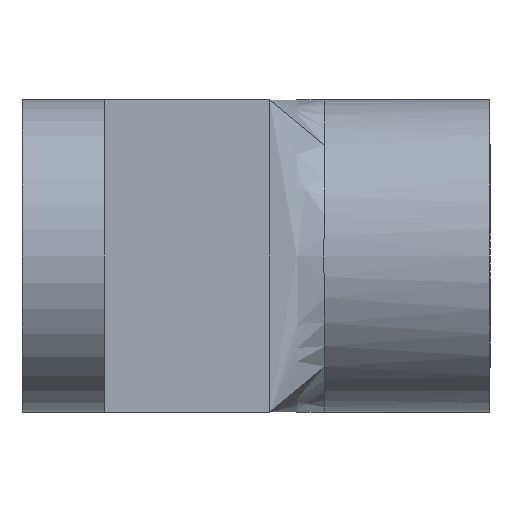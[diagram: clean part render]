
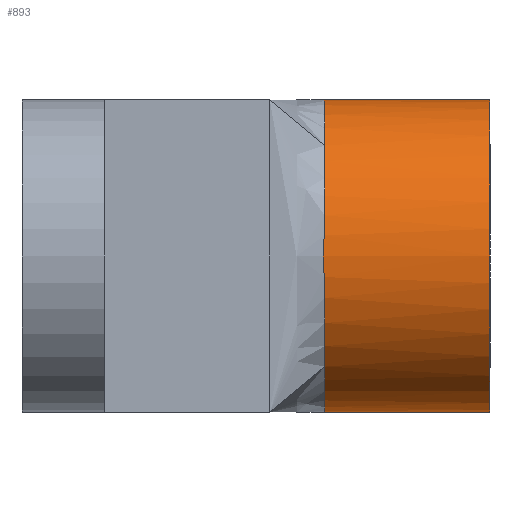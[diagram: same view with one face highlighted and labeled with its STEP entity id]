
A CAD part, left-side view. The second image highlights one B-rep face of the part: STEP entity #893.
In plain terms, the highlighted cylindrical face has radius 4.508 mm (diameter 9.017 mm), a partial arc.
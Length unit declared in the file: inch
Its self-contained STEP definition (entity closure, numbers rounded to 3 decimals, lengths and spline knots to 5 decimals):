
#19 = VERTEX_POINT ( 'NONE', #906 ) ;
#33 = CARTESIAN_POINT ( 'NONE',  ( -0.17177, 0.18769, 0.04625 ) ) ;
#37 = CARTESIAN_POINT ( 'NONE',  ( -0.13377, 0.1875, -0.11725 ) ) ;
#41 = CARTESIAN_POINT ( 'NONE',  ( -0.17178, 0.18769, -0.04619 ) ) ;
#60 = CARTESIAN_POINT ( 'NONE',  ( -0.12551, 0.1875, -0.12551 ) ) ;
#76 = ORIENTED_EDGE ( 'NONE', *, *, #1014, .F. ) ;
#104 = CARTESIAN_POINT ( 'NONE',  ( -0.12551, 0.1875, -0.12551 ) ) ;
#110 = LINE ( 'NONE', #631, #276 ) ;
#117 = CARTESIAN_POINT ( 'NONE',  ( -0.12551, 0.1875, 0.12551 ) ) ;
#126 = CARTESIAN_POINT ( 'NONE',  ( -0.1775, 0.18889, -0.00576 ) ) ;
#134 = CARTESIAN_POINT ( 'NONE',  ( -0.17607, 0.18828, -0.02325 ) ) ;
#160 = VERTEX_POINT ( 'NONE', #180 ) ;
#177 = VECTOR ( 'NONE', #904, 39.37008 ) ;
#178 = VERTEX_POINT ( 'NONE', #348 ) ;
#180 = CARTESIAN_POINT ( 'NONE',  ( 0., 0.18912, -0.1775 ) ) ;
#187 = B_SPLINE_CURVE_WITH_KNOTS ( 'NONE', 3,
 ( #245, #514, #948, #1103, #420, #863, #600, #757, #688, #856, #765, #341 ),
 .UNSPECIFIED., .F., .F.,
 ( 4, 2, 2, 2, 2, 4 ),
 ( 0., 0.00088, 0.00176, 0.00263, 0.00307, 0.00351 ),
 .UNSPECIFIED. ) ;
#190 = ORIENTED_EDGE ( 'NONE', *, *, #986, .T. ) ;
#192 = VERTEX_POINT ( 'NONE', #857 ) ;
#199 = B_SPLINE_CURVE_WITH_KNOTS ( 'NONE', 3,
 ( #807, #37, #799, #1071, #892, #895, #41, #215, #134, #1065, #126, #728 ),
 .UNSPECIFIED., .F., .F.,
 ( 4, 2, 2, 2, 2, 4 ),
 ( 0., 0.00088, 0.00176, 0.00263, 0.00307, 0.00351 ),
 .UNSPECIFIED. ) ;
#210 = DIRECTION ( 'NONE',  ( 0., 1., 0. ) ) ;
#215 = CARTESIAN_POINT ( 'NONE',  ( -0.17521, 0.18811, -0.02903 ) ) ;
#231 = CARTESIAN_POINT ( 'NONE',  ( -0.08893, 0.18753, -0.15405 ) ) ;
#245 = CARTESIAN_POINT ( 'NONE',  ( -0.12551, 0.1875, 0.12551 ) ) ;
#261 = ORIENTED_EDGE ( 'NONE', *, *, #292, .F. ) ;
#272 = ORIENTED_EDGE ( 'NONE', *, *, #1003, .T. ) ;
#276 = VECTOR ( 'NONE', #635, 39.37008 ) ;
#288 = FACE_OUTER_BOUND ( 'NONE', #1087, .T. ) ;
#292 = EDGE_CURVE ( 'NONE', #344, #19, #110, .T. ) ;
#299 = CARTESIAN_POINT ( 'NONE',  ( -0.16838, 0.18753, 0.05732 ) ) ;
#315 = AXIS2_PLACEMENT_3D ( 'NONE', #633, #210, #466 ) ;
#341 = CARTESIAN_POINT ( 'NONE',  ( 0., 0.18912, 0.1775 ) ) ;
#344 = VERTEX_POINT ( 'NONE', #798 ) ;
#348 = CARTESIAN_POINT ( 'NONE',  ( -0.12551, 0.1875, 0.12551 ) ) ;
#354 = CYLINDRICAL_SURFACE ( 'NONE', #777, 0.1775 ) ;
#361 = ORIENTED_EDGE ( 'NONE', *, *, #462, .F. ) ;
#370 = VERTEX_POINT ( 'NONE', #104 ) ;
#372 = CIRCLE ( 'NONE', #315, 0.1775 ) ;
#379 = CARTESIAN_POINT ( 'NONE',  ( -0.15956, 0.18748, 0.07861 ) ) ;
#420 = CARTESIAN_POINT ( 'NONE',  ( -0.07884, 0.18748, 0.15945 ) ) ;
#462 = EDGE_CURVE ( 'NONE', #178, #344, #187, .T. ) ;
#466 = DIRECTION ( 'NONE',  ( 0., 0., 1. ) ) ;
#514 = CARTESIAN_POINT ( 'NONE',  ( -0.11725, 0.1875, 0.13377 ) ) ;
#530 = DIRECTION ( 'NONE',  ( 0., -1., 0. ) ) ;
#531 = ORIENTED_EDGE ( 'NONE', *, *, #1075, .F. ) ;
#549 = CARTESIAN_POINT ( 'NONE',  ( -0.17635, 0.18825, 0.02335 ) ) ;
#569 = CARTESIAN_POINT ( 'NONE',  ( -0.07861, 0.18748, -0.15956 ) ) ;
#576 = CARTESIAN_POINT ( 'NONE',  ( -0.01167, 0.18865, -0.1775 ) ) ;
#580 = VERTEX_POINT ( 'NONE', #805 ) ;
#594 = B_SPLINE_CURVE_WITH_KNOTS ( 'NONE', 3,
 ( #733, #576, #1083, #1004, #657, #569, #231, #910, #918, #60 ),
 .UNSPECIFIED., .F., .F.,
 ( 4, 2, 2, 2, 4 ),
 ( -0.00007, 0.00082, 0.00171, 0.0026, 0.00349 ),
 .UNSPECIFIED. ) ;
#600 = CARTESIAN_POINT ( 'NONE',  ( -0.04619, 0.18769, 0.17178 ) ) ;
#631 = CARTESIAN_POINT ( 'NONE',  ( 0., 1.12705, 0.1775 ) ) ;
#633 = CARTESIAN_POINT ( 'NONE',  ( 0., 0., 0. ) ) ;
#635 = DIRECTION ( 'NONE',  ( 0., -1., 0. ) ) ;
#641 = CARTESIAN_POINT ( 'NONE',  ( -0.14113, 0.18753, 0.10828 ) ) ;
#657 = CARTESIAN_POINT ( 'NONE',  ( -0.05732, 0.18753, -0.16838 ) ) ;
#688 = CARTESIAN_POINT ( 'NONE',  ( -0.02325, 0.18828, 0.17607 ) ) ;
#716 = CARTESIAN_POINT ( 'NONE',  ( -0.15405, 0.18753, 0.08893 ) ) ;
#719 = CARTESIAN_POINT ( 'NONE',  ( 0., 1.12705, -0.1775 ) ) ;
#728 = CARTESIAN_POINT ( 'NONE',  ( -0.1775, 0.18912, 0. ) ) ;
#733 = CARTESIAN_POINT ( 'NONE',  ( 0., 0.18912, -0.1775 ) ) ;
#748 = B_SPLINE_CURVE_WITH_KNOTS ( 'NONE', 3,
 ( #980, #1068, #549, #33, #299, #379, #716, #641, #888, #117 ),
 .UNSPECIFIED., .F., .F.,
 ( 4, 2, 2, 2, 4 ),
 ( -0.00007, 0.00082, 0.00171, 0.0026, 0.00349 ),
 .UNSPECIFIED. ) ;
#757 = CARTESIAN_POINT ( 'NONE',  ( -0.02903, 0.18811, 0.17521 ) ) ;
#765 = CARTESIAN_POINT ( 'NONE',  ( -0.00576, 0.18889, 0.1775 ) ) ;
#777 = AXIS2_PLACEMENT_3D ( 'NONE', #1041, #530, #946 ) ;
#798 = CARTESIAN_POINT ( 'NONE',  ( 0., 0.18912, 0.1775 ) ) ;
#799 = CARTESIAN_POINT ( 'NONE',  ( -0.14109, 0.18753, -0.10831 ) ) ;
#803 = LINE ( 'NONE', #719, #177 ) ;
#805 = CARTESIAN_POINT ( 'NONE',  ( 0., 0., -0.1775 ) ) ;
#807 = CARTESIAN_POINT ( 'NONE',  ( -0.12551, 0.1875, -0.12551 ) ) ;
#808 = ORIENTED_EDGE ( 'NONE', *, *, #936, .F. ) ;
#856 = CARTESIAN_POINT ( 'NONE',  ( -0.01163, 0.18867, 0.17721 ) ) ;
#857 = CARTESIAN_POINT ( 'NONE',  ( -0.1775, 0.18912, 0. ) ) ;
#863 = CARTESIAN_POINT ( 'NONE',  ( -0.05736, 0.18752, 0.16838 ) ) ;
#888 = CARTESIAN_POINT ( 'NONE',  ( -0.13377, 0.1875, 0.11725 ) ) ;
#892 = CARTESIAN_POINT ( 'NONE',  ( -0.15945, 0.18748, -0.07884 ) ) ;
#893 = ADVANCED_FACE ( 'NONE', ( #288 ), #354, .T. ) ;
#895 = CARTESIAN_POINT ( 'NONE',  ( -0.16838, 0.18752, -0.05736 ) ) ;
#904 = DIRECTION ( 'NONE',  ( 0., -1., 0. ) ) ;
#906 = CARTESIAN_POINT ( 'NONE',  ( 0., 0., 0.1775 ) ) ;
#910 = CARTESIAN_POINT ( 'NONE',  ( -0.10828, 0.18753, -0.14113 ) ) ;
#918 = CARTESIAN_POINT ( 'NONE',  ( -0.11725, 0.1875, -0.13377 ) ) ;
#936 = EDGE_CURVE ( 'NONE', #370, #192, #199, .T. ) ;
#946 = DIRECTION ( 'NONE',  ( 0., 0., -1. ) ) ;
#948 = CARTESIAN_POINT ( 'NONE',  ( -0.10831, 0.18753, 0.14109 ) ) ;
#980 = CARTESIAN_POINT ( 'NONE',  ( -0.1775, 0.18912, 0. ) ) ;
#986 = EDGE_CURVE ( 'NONE', #160, #580, #803, .T. ) ;
#1003 = EDGE_CURVE ( 'NONE', #580, #19, #372, .T. ) ;
#1004 = CARTESIAN_POINT ( 'NONE',  ( -0.04625, 0.18769, -0.17177 ) ) ;
#1014 = EDGE_CURVE ( 'NONE', #192, #178, #748, .T. ) ;
#1041 = CARTESIAN_POINT ( 'NONE',  ( 0., 1.12705, 0. ) ) ;
#1065 = CARTESIAN_POINT ( 'NONE',  ( -0.17721, 0.18867, -0.01163 ) ) ;
#1068 = CARTESIAN_POINT ( 'NONE',  ( -0.1775, 0.18865, 0.01167 ) ) ;
#1071 = CARTESIAN_POINT ( 'NONE',  ( -0.15391, 0.18753, -0.08916 ) ) ;
#1075 = EDGE_CURVE ( 'NONE', #160, #370, #594, .T. ) ;
#1083 = CARTESIAN_POINT ( 'NONE',  ( -0.02335, 0.18825, -0.17635 ) ) ;
#1087 = EDGE_LOOP ( 'NONE', ( #261, #361, #76, #808, #531, #190, #272 ) ) ;
#1103 = CARTESIAN_POINT ( 'NONE',  ( -0.08916, 0.18753, 0.15391 ) ) ;
